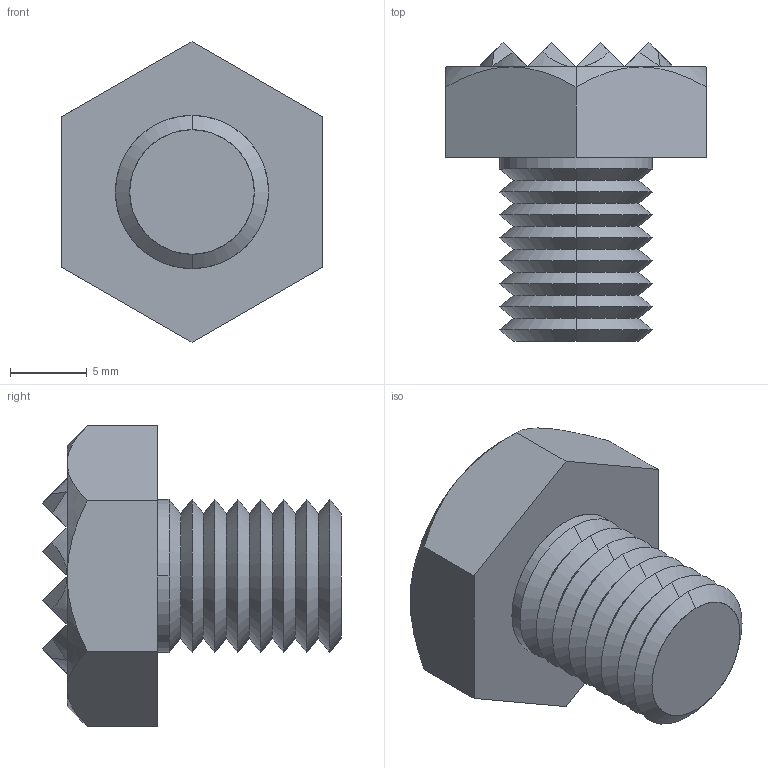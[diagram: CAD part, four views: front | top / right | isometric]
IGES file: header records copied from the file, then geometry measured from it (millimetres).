
Start section: SolidWorks IGES file using analytic representation for surfaces
Global section: file name: C:\Documents and Settings\IANO\Desktop\Temp File\Process pending\NEW\35400_v2\35400_v2_20170704_IGES\35400.W0006.igs; native system: SolidWorks 2009; preprocessor: SolidWorks 2009; author: IANO; date: 170703.082105; units: millimetre
Bounding box: 17 x 19.5 x 19.63 mm (x, y, z)
Surface area: 1399.3 mm2 (no closed solid volume)
Topology: 0 solids, 0 shells, 116 faces, 681 edges, 681 vertices
Faces by surface type: bspline 65, revolution 51
